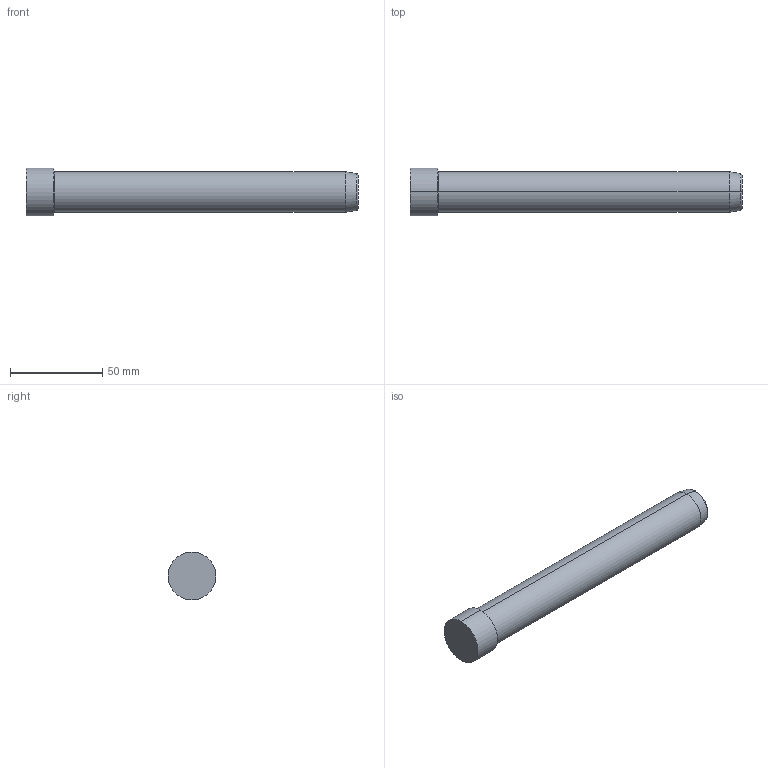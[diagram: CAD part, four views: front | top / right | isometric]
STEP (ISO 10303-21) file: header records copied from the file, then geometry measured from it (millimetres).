
FILE_DESCRIPTION( ( 'STEP AP203' ), '1' );
FILE_NAME( 'D:/Delta 3 D/D01D/22/D01D - 22x180.step', '2003-01-02T23:26:48', ( ' ' ), ( ' ' ), 'XStep 1.0', ' ', ' ' );
FILE_SCHEMA( ( 'CONFIG_CONTROL_DESIGN' ) );
Length unit declared in the file: metre
Products named in the file (1): 1
Bounding box: 180 x 26 x 26 mm (x, y, z)
Volume: 70381.4 mm3; surface area: 13606.2 mm2
Topology: 1 solids, 1 shells, 14 faces, 26 edges, 16 vertices
Faces by surface type: revolution 8, bspline 6
Entity records: 437 total; most frequent: CARTESIAN_POINT 121, ORIENTED_EDGE 52, DIRECTION 50, EDGE_CURVE 26, AXIS2_PLACEMENT_3D 17, EDGE_LOOP 16, VERTEX_POINT 16, CIRCLE 16
